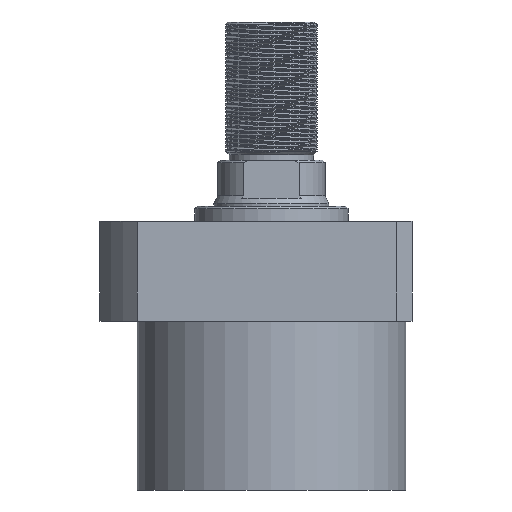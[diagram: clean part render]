
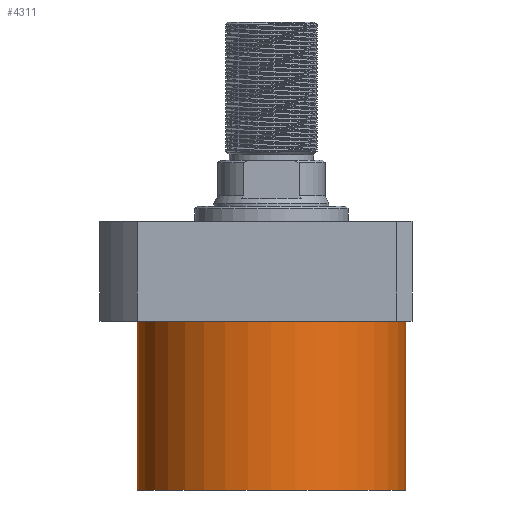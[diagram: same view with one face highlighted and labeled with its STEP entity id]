
A CAD part, front view. The second image highlights one B-rep face of the part: STEP entity #4311.
In plain terms, the highlighted cylindrical face has radius 52.5 mm (diameter 105 mm), a partial arc.
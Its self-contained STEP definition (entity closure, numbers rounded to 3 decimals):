
#554 = DIRECTION ( 'NONE',  ( -1., 0., 0. ) ) ;
#616 = AXIS2_PLACEMENT_3D ( 'NONE', #2574, #6986, #3190 ) ;
#800 = VERTEX_POINT ( 'NONE', #8259 ) ;
#1703 = CARTESIAN_POINT ( 'NONE',  ( 52.5, 0., -85.5 ) ) ;
#2366 = DIRECTION ( 'NONE',  ( 1., 0., 0. ) ) ;
#2457 = ORIENTED_EDGE ( 'NONE', *, *, #6215, .F. ) ;
#2560 = VECTOR ( 'NONE', #4884, 1000. ) ;
#2574 = CARTESIAN_POINT ( 'NONE',  ( 0., 0., -19.5 ) ) ;
#2904 = DIRECTION ( 'NONE',  ( 0., 0., 1. ) ) ;
#2969 = DIRECTION ( 'NONE',  ( 0., 0., 1. ) ) ;
#3190 = DIRECTION ( 'NONE',  ( 1., 0., 0. ) ) ;
#3720 = CYLINDRICAL_SURFACE ( 'NONE', #4201, 52.5 ) ;
#4056 = LINE ( 'NONE', #4245, #2560 ) ;
#4201 = AXIS2_PLACEMENT_3D ( 'NONE', #4897, #2969, #2366 ) ;
#4245 = CARTESIAN_POINT ( 'NONE',  ( -52.5, 0., -85.5 ) ) ;
#4311 = ADVANCED_FACE ( 'NONE', ( #5620 ), #3720, .T. ) ;
#4377 = DIRECTION ( 'NONE',  ( 0., 0., -1. ) ) ;
#4440 = CARTESIAN_POINT ( 'NONE',  ( 52.5, 0., -19.5 ) ) ;
#4493 = EDGE_CURVE ( 'NONE', #6968, #800, #6130, .T. ) ;
#4533 = VERTEX_POINT ( 'NONE', #7660 ) ;
#4878 = ORIENTED_EDGE ( 'NONE', *, *, #6358, .F. ) ;
#4884 = DIRECTION ( 'NONE',  ( 0., 0., 1. ) ) ;
#4897 = CARTESIAN_POINT ( 'NONE',  ( 0., 0., -85.5 ) ) ;
#4952 = CIRCLE ( 'NONE', #5069, 52.5 ) ;
#5043 = VECTOR ( 'NONE', #2904, 1000. ) ;
#5069 = AXIS2_PLACEMENT_3D ( 'NONE', #8192, #4377, #554 ) ;
#5231 = EDGE_LOOP ( 'NONE', ( #2457, #4878, #5759, #5615 ) ) ;
#5238 = LINE ( 'NONE', #7311, #5043 ) ;
#5615 = ORIENTED_EDGE ( 'NONE', *, *, #4493, .T. ) ;
#5620 = FACE_OUTER_BOUND ( 'NONE', #5231, .T. ) ;
#5759 = ORIENTED_EDGE ( 'NONE', *, *, #7331, .T. ) ;
#6130 = CIRCLE ( 'NONE', #616, 52.5 ) ;
#6215 = EDGE_CURVE ( 'NONE', #4533, #800, #4056, .T. ) ;
#6250 = VERTEX_POINT ( 'NONE', #1703 ) ;
#6358 = EDGE_CURVE ( 'NONE', #6250, #4533, #4952, .T. ) ;
#6968 = VERTEX_POINT ( 'NONE', #4440 ) ;
#6986 = DIRECTION ( 'NONE',  ( 0., 0., -1. ) ) ;
#7311 = CARTESIAN_POINT ( 'NONE',  ( 52.5, 0., -85.5 ) ) ;
#7331 = EDGE_CURVE ( 'NONE', #6250, #6968, #5238, .T. ) ;
#7660 = CARTESIAN_POINT ( 'NONE',  ( -52.5, 0., -85.5 ) ) ;
#8192 = CARTESIAN_POINT ( 'NONE',  ( 0., 0., -85.5 ) ) ;
#8259 = CARTESIAN_POINT ( 'NONE',  ( -52.5, 0., -19.5 ) ) ;
